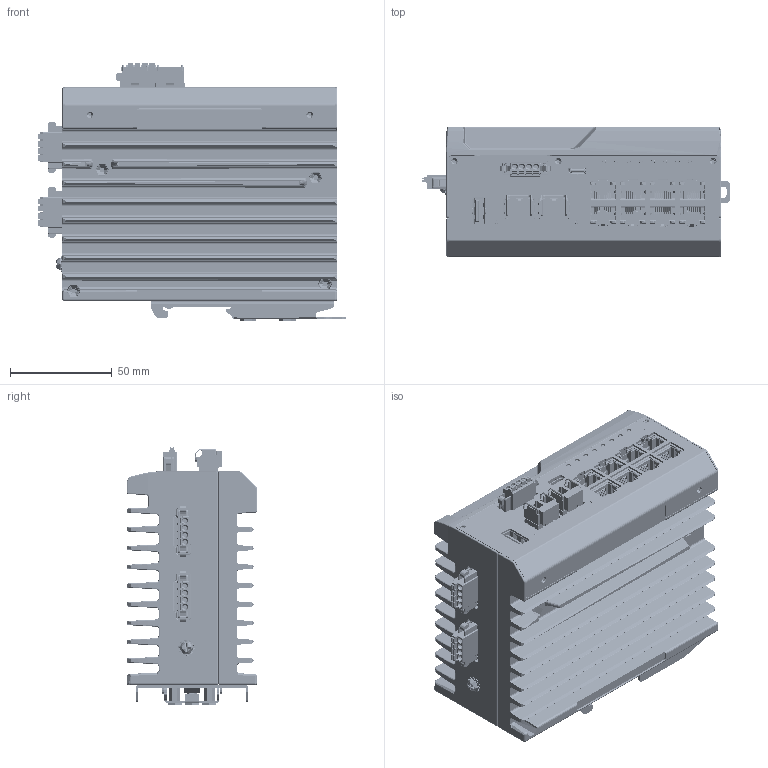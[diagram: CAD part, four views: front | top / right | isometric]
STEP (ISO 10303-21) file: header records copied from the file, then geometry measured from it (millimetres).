
FILE_DESCRIPTION((''),'2;1');
FILE_NAME('00_EDR_G9010_HV_ASSY_UNIT_PZ_DI','2022-03-31T14:56:48',('LuluYJ_Chen'),('PTC'),'CREO PARAMETRIC BY PTC INC, 2018020','CREO PARAMETRIC BY PTC INC, 2018020','');
FILE_SCHEMA(('AUTOMOTIVE_DESIGN { 1 0 10303 214 1 1 1 1 }'));
Products named in the file (1): 00_EDR_G9010_HV_ASSY_UNIT_PZ_DI
Bounding box: 151.38 x 64.03 x 126.83 mm (x, y, z)
Topology: 40 solids, 11686 shells, 20579 faces, 90060 edges, 81142 vertices
Faces by surface type: plane 14502, cylinder 4426, bspline 649, cone 489, torus 392, sphere 102, revolution 18, extrusion 1
Entity records: 1001226 total; most frequent: CARTESIAN_POINT 258762, DIRECTION 131621, ORIENTED_EDGE 113616, EDGE_CURVE 89950, VERTEX_POINT 81153, VECTOR 72337, LINE 72336, AXIS2_PLACEMENT_3D 29633
